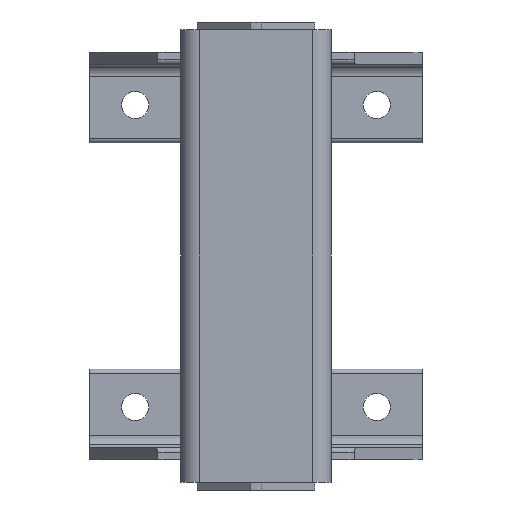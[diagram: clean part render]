
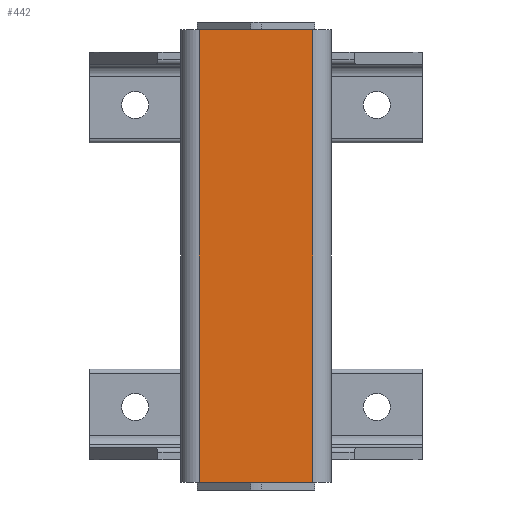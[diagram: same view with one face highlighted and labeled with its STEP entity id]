
A CAD part, left-side view. The second image highlights one B-rep face of the part: STEP entity #442.
In plain terms, the highlighted planar face has unit normal (-1, 0, 0).
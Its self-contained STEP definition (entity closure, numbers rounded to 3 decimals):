
#384=CARTESIAN_POINT('',(-50.,-37.5,300.0));
#385=VERTEX_POINT('',#384);
#393=CARTESIAN_POINT('',(-50.,-37.5,0.0));
#394=VERTEX_POINT('',#393);
#395=CARTESIAN_POINT('',(-50.,-37.5,0.0));
#396=DIRECTION('',(0.0,0.0,1.0));
#397=VECTOR('',#396,300.0);
#398=LINE('',#395,#397);
#399=EDGE_CURVE('',#394,#385,#398,.T.);
#412=CARTESIAN_POINT('',(-50.,-37.5,0.0));
#413=DIRECTION('',(-1.0,0.0,0.0));
#414=DIRECTION('',(0.0,0.0,1.0));
#415=AXIS2_PLACEMENT_3D('',#412,#413,#414);
#416=PLANE('',#415);
#417=CARTESIAN_POINT('',(-50.,37.5,300.0));
#418=VERTEX_POINT('',#417);
#419=CARTESIAN_POINT('',(-50.,-37.5,300.0));
#420=DIRECTION('',(0.0,1.0,0.0));
#421=VECTOR('',#420,75.);
#422=LINE('',#419,#421);
#423=EDGE_CURVE('',#385,#418,#422,.T.);
#424=ORIENTED_EDGE('',*,*,#423,.T.);
#425=CARTESIAN_POINT('',(-50.,37.5,0.0));
#426=VERTEX_POINT('',#425);
#427=CARTESIAN_POINT('',(-50.,37.5,0.0));
#428=DIRECTION('',(0.0,0.0,1.0));
#429=VECTOR('',#428,300.0);
#430=LINE('',#427,#429);
#431=EDGE_CURVE('',#426,#418,#430,.T.);
#432=ORIENTED_EDGE('',*,*,#431,.F.);
#433=CARTESIAN_POINT('',(-50.,37.5,0.0));
#434=DIRECTION('',(0.0,-1.0,0.0));
#435=VECTOR('',#434,75.);
#436=LINE('',#433,#435);
#437=EDGE_CURVE('',#426,#394,#436,.T.);
#438=ORIENTED_EDGE('',*,*,#437,.T.);
#439=ORIENTED_EDGE('',*,*,#399,.T.);
#440=EDGE_LOOP('',(#424,#432,#438,#439));
#441=FACE_OUTER_BOUND('',#440,.T.);
#442=ADVANCED_FACE('',(#441),#416,.T.);
